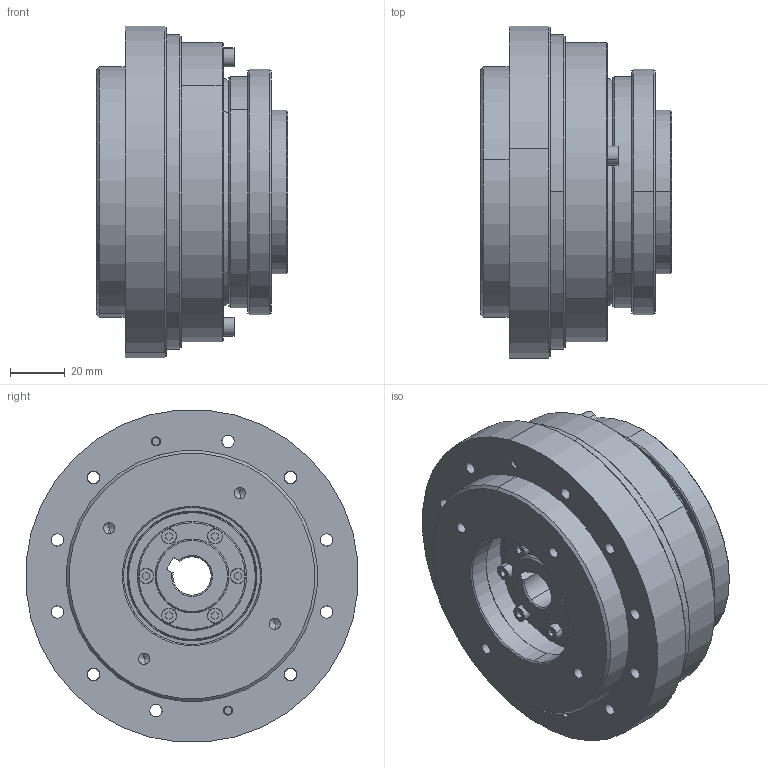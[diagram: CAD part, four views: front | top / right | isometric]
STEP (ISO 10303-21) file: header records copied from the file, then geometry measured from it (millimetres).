
FILE_DESCRIPTION (( 'STEP AP214' ), '1' );
FILE_NAME ('LHSG-25-XXX-RDP-14-30-50-70-M5.step', '2022-08-03T03:58:32', ( 'Sysceo.com' ), ( '' ), 'SwSTEP 2.0', 'SolidWorks 2020', '' );
FILE_SCHEMA (( 'AUTOMOTIVE_DESIGN' ));
Length unit declared in the file: millimetre
Products named in the file (1): LHSG-25-XXX-RDP-14-30-50-70-M5
Bounding box: 70 x 121.54 x 121.54 mm (x, y, z)
Volume: 428915.7 mm3; surface area: 219386.4 mm2
Topology: 93 solids, 93 shells, 1876 faces, 4402 edges, 2554 vertices
Faces by surface type: cylinder 627, plane 535, cone 384, sphere 192, torus 138
Entity records: 72916 total; most frequent: DIRECTION 9860, CARTESIAN_POINT 8661, ORIENTED_EDGE 7996, AXIS2_PLACEMENT_3D 4093, EDGE_CURVE 3998, VERTEX_POINT 2462, EDGE_LOOP 2296, CIRCLE 2216
